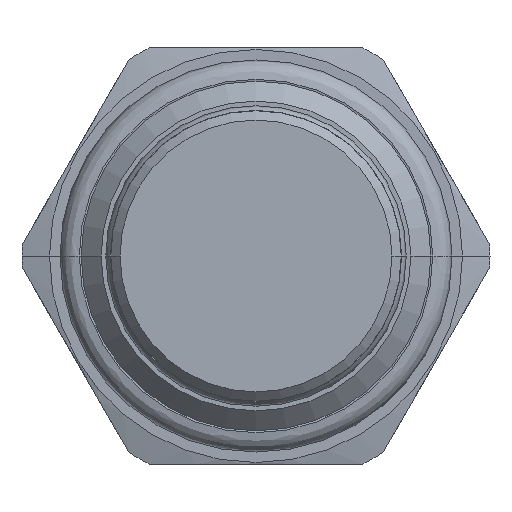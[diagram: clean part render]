
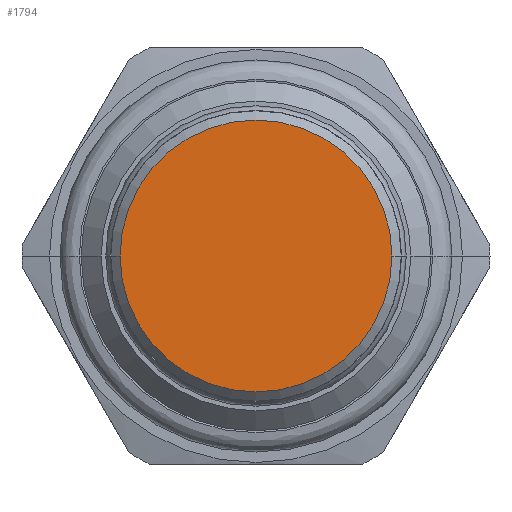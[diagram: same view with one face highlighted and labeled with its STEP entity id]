
A CAD part, front view. The second image highlights one B-rep face of the part: STEP entity #1794.
In plain terms, the highlighted planar face has unit normal (0, -1, 0).
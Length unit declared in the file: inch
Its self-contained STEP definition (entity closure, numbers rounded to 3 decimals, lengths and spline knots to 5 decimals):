
#178=CARTESIAN_POINT('',(0.,-1.81,0.));
#179=DIRECTION('',(0.,-1.,0.));
#180=DIRECTION('',(-1.,0.,0.));
#181=AXIS2_PLACEMENT_3D('',#178,#179,#180);
#202=CARTESIAN_POINT('',(0.,-1.81,0.));
#203=DIRECTION('',(0.,1.,0.));
#204=DIRECTION('',(-1.,0.,0.));
#205=AXIS2_PLACEMENT_3D('',#202,#203,#204);
#1427=CARTESIAN_POINT('',(-0.408,-1.81,0.));
#1428=CARTESIAN_POINT('',(0.408,-1.81,0.));
#1429=VERTEX_POINT('',#1427);
#1430=VERTEX_POINT('',#1428);
#1785=CARTESIAN_POINT('',(0.,-1.81,0.));
#1786=DIRECTION('',(0.,1.,0.));
#1787=DIRECTION('',(1.,0.,0.));
#1788=AXIS2_PLACEMENT_3D('',#1785,#1786,#1787);
#1789=PLANE('',#1788);
#1790=ORIENTED_EDGE('',*,*,#1763,.F.);
#1791=ORIENTED_EDGE('',*,*,#1779,.T.);
#1792=EDGE_LOOP('',(#1790,#1791));
#1793=FACE_OUTER_BOUND('',#1792,.F.);
#1794=ADVANCED_FACE('',(#1793),#1789,.F.);
#182=CIRCLE('',#181,0.408);
#206=CIRCLE('',#205,0.408);
#1763=EDGE_CURVE('',#1429,#1430,#182,.T.);
#1779=EDGE_CURVE('',#1429,#1430,#206,.T.);
